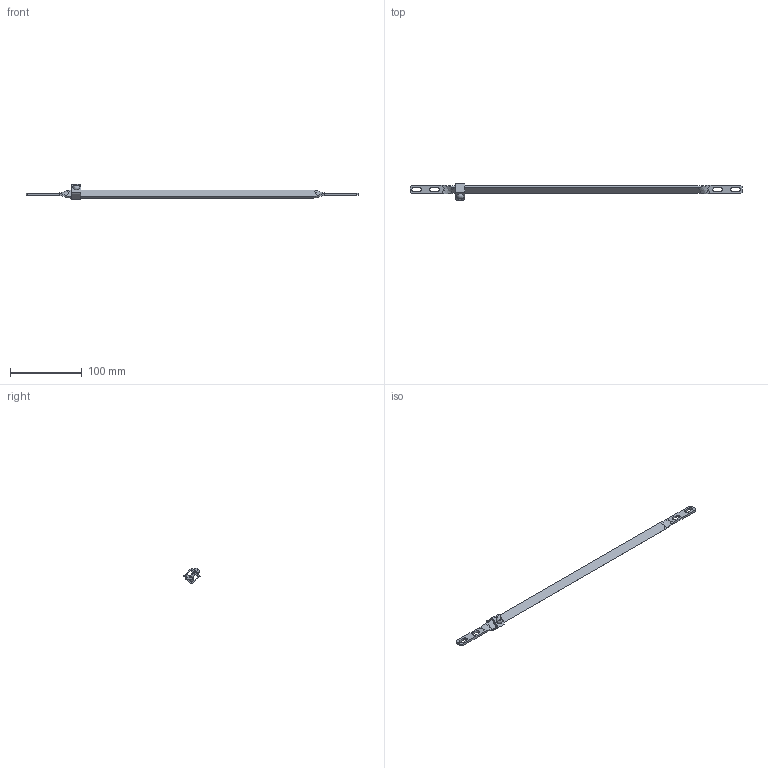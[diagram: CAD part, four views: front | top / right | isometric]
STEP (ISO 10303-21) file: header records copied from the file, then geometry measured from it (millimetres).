
FILE_DESCRIPTION (( 'STEP AP214' ), '1' );
FILE_NAME ('04201.STEP', '2014-03-14T09:55:22', ( '' ), ( '' ), 'SwSTEP 2.0', 'SolidWorks 2013', '' );
FILE_SCHEMA (( 'AUTOMOTIVE_DESIGN' ));
Length unit declared in the file: millimetre
Products named in the file (1): 04201
Bounding box: 462.5 x 22.36 x 21.85 mm (x, y, z)
Surface area: 16289.9 mm2 (no closed solid volume)
Topology: 0 solids, 5 shells, 120 faces, 310 edges, 198 vertices
Faces by surface type: bspline 69, plane 51
Entity records: 10690 total; most frequent: CARTESIAN_POINT 6959, ORIENTED_EDGE 612, EDGE_CURVE 310, DIRECTION 256, VERTEX_POINT 198, LINE 152, VECTOR 152, B_SPLINE_CURVE_WITH_KNOTS 135
